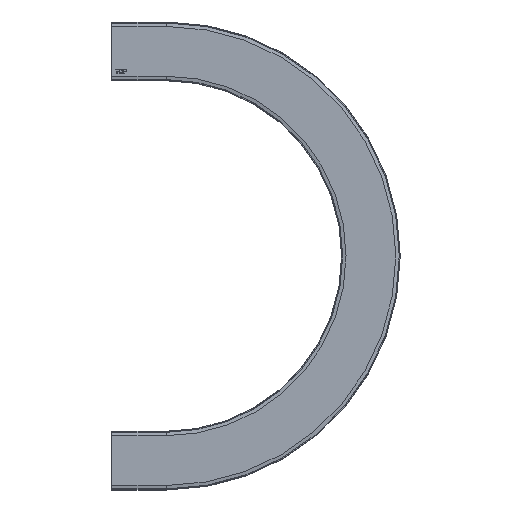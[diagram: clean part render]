
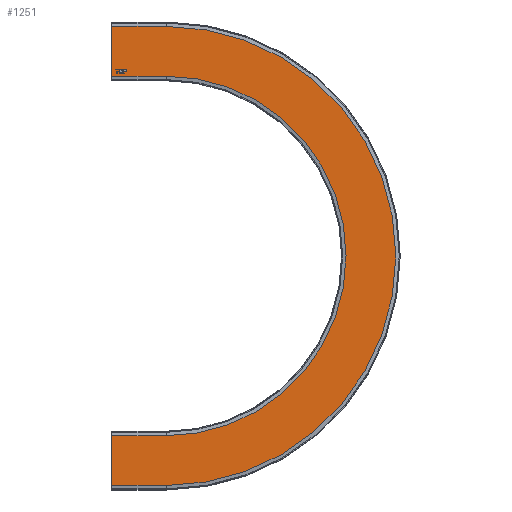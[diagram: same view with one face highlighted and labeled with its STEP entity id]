
A CAD part, top view. The second image highlights one B-rep face of the part: STEP entity #1251.
In plain terms, the highlighted planar face has unit normal (0, 0, 1).
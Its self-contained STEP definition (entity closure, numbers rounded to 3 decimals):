
#243=CARTESIAN_POINT('',(10.621,-29.49,0.0));
#244=VERTEX_POINT('',#243);
#251=CARTESIAN_POINT('',(13.541,-32.563,0.0));
#252=VERTEX_POINT('',#251);
#253=CARTESIAN_POINT('',(13.541,-32.563,0.0));
#254=CARTESIAN_POINT('',(12.676,-32.563,0.0));
#255=CARTESIAN_POINT('',(11.319,-31.731,0.0));
#256=CARTESIAN_POINT('',(10.621,-30.294,0.0));
#257=CARTESIAN_POINT('',(10.621,-29.49,0.0));
#258=QUASI_UNIFORM_CURVE('',2,(#253,#254,#255,#256,#257),.UNSPECIFIED.,.F.,.U.);
#259=EDGE_CURVE('',#252,#244,#258,.T.);
#292=CARTESIAN_POINT('',(16.456,-29.42,0.0));
#293=VERTEX_POINT('',#292);
#294=CARTESIAN_POINT('',(16.456,-29.42,0.0));
#295=CARTESIAN_POINT('',(16.456,-30.346,0.0));
#296=CARTESIAN_POINT('',(15.708,-31.81,0.0));
#297=CARTESIAN_POINT('',(14.331,-32.563,0.0));
#298=CARTESIAN_POINT('',(13.541,-32.563,0.0));
#299=QUASI_UNIFORM_CURVE('',2,(#294,#295,#296,#297,#298),.UNSPECIFIED.,.F.,.U.);
#300=EDGE_CURVE('',#293,#252,#299,.T.);
#333=CARTESIAN_POINT('',(13.541,-26.254,0.0));
#334=VERTEX_POINT('',#333);
#335=CARTESIAN_POINT('',(13.541,-26.254,0.0));
#336=CARTESIAN_POINT('',(14.387,-26.254,0.0));
#337=CARTESIAN_POINT('',(15.745,-27.063,0.0));
#338=CARTESIAN_POINT('',(16.456,-28.504,0.0));
#339=CARTESIAN_POINT('',(16.456,-29.42,0.0));
#340=QUASI_UNIFORM_CURVE('',2,(#335,#336,#337,#338,#339),.UNSPECIFIED.,.F.,.U.);
#341=EDGE_CURVE('',#334,#293,#340,.T.);
#369=CARTESIAN_POINT('',(10.621,-29.49,0.0));
#370=CARTESIAN_POINT('',(10.621,-27.97,0.0));
#371=CARTESIAN_POINT('',(12.253,-26.254,0.0));
#372=CARTESIAN_POINT('',(13.541,-26.254,0.0));
#373=QUASI_UNIFORM_CURVE('',2,(#369,#370,#371,#372),.UNSPECIFIED.,.F.,.U.);
#374=EDGE_CURVE('',#244,#334,#373,.T.);
#413=CARTESIAN_POINT('',(7.208,-32.461,0.0));
#414=VERTEX_POINT('',#413);
#421=CARTESIAN_POINT('',(8.017,-32.461,0.0));
#422=VERTEX_POINT('',#421);
#423=CARTESIAN_POINT('',(8.017,-32.461,0.0));
#424=DIRECTION('',(-1.0,0.0,0.0));
#425=VECTOR('',#424,0.809);
#426=LINE('',#423,#425);
#427=EDGE_CURVE('',#422,#414,#426,.T.);
#452=CARTESIAN_POINT('',(8.017,-27.082,0.0));
#453=VERTEX_POINT('',#452);
#454=CARTESIAN_POINT('',(8.017,-27.082,0.0));
#455=DIRECTION('',(0.0,-1.0,0.0));
#456=VECTOR('',#455,5.379);
#457=LINE('',#454,#456);
#458=EDGE_CURVE('',#453,#422,#457,.T.);
#483=CARTESIAN_POINT('',(10.035,-27.082,0.0));
#484=VERTEX_POINT('',#483);
#485=CARTESIAN_POINT('',(10.035,-27.082,0.0));
#486=DIRECTION('',(-1.0,0.0,0.0));
#487=VECTOR('',#486,2.018);
#488=LINE('',#485,#487);
#489=EDGE_CURVE('',#484,#453,#488,.T.);
#514=CARTESIAN_POINT('',(10.035,-26.361,0.0));
#515=VERTEX_POINT('',#514);
#516=CARTESIAN_POINT('',(10.035,-26.361,0.0));
#517=DIRECTION('',(0.0,-1.0,0.0));
#518=VECTOR('',#517,0.721);
#519=LINE('',#516,#518);
#520=EDGE_CURVE('',#515,#484,#519,.T.);
#545=CARTESIAN_POINT('',(5.2,-26.361,0.0));
#546=VERTEX_POINT('',#545);
#547=CARTESIAN_POINT('',(5.2,-26.361,0.0));
#548=DIRECTION('',(1.0,0.0,0.0));
#549=VECTOR('',#548,4.835);
#550=LINE('',#547,#549);
#551=EDGE_CURVE('',#546,#515,#550,.T.);
#576=CARTESIAN_POINT('',(5.2,-27.082,0.0));
#577=VERTEX_POINT('',#576);
#578=CARTESIAN_POINT('',(5.2,-27.082,0.0));
#579=DIRECTION('',(0.0,1.0,0.0));
#580=VECTOR('',#579,0.721);
#581=LINE('',#578,#580);
#582=EDGE_CURVE('',#577,#546,#581,.T.);
#607=CARTESIAN_POINT('',(7.208,-27.082,0.0));
#608=VERTEX_POINT('',#607);
#609=CARTESIAN_POINT('',(7.208,-27.082,0.0));
#610=DIRECTION('',(-1.0,0.0,0.0));
#611=VECTOR('',#610,2.009);
#612=LINE('',#609,#611);
#613=EDGE_CURVE('',#608,#577,#612,.T.);
#636=CARTESIAN_POINT('',(7.208,-32.461,0.0));
#637=DIRECTION('',(0.0,1.0,0.0));
#638=VECTOR('',#637,5.379);
#639=LINE('',#636,#638);
#640=EDGE_CURVE('',#414,#608,#639,.T.);
#877=CARTESIAN_POINT('',(17.493,-32.461,0.0));
#878=VERTEX_POINT('',#877);
#885=CARTESIAN_POINT('',(18.302,-32.461,0.0));
#886=VERTEX_POINT('',#885);
#887=CARTESIAN_POINT('',(18.302,-32.461,0.0));
#888=DIRECTION('',(-1.0,0.0,0.0));
#889=VECTOR('',#888,0.809);
#890=LINE('',#887,#889);
#891=EDGE_CURVE('',#886,#878,#890,.T.);
#916=CARTESIAN_POINT('',(18.302,-29.983,0.0));
#917=VERTEX_POINT('',#916);
#918=CARTESIAN_POINT('',(18.302,-29.983,0.0));
#919=DIRECTION('',(0.0,-1.0,0.0));
#920=VECTOR('',#919,2.478);
#921=LINE('',#918,#920);
#922=EDGE_CURVE('',#917,#886,#921,.T.);
#947=CARTESIAN_POINT('',(19.869,-29.983,0.0));
#948=VERTEX_POINT('',#947);
#949=CARTESIAN_POINT('',(19.869,-29.983,0.0));
#950=DIRECTION('',(-1.0,0.0,0.0));
#951=VECTOR('',#950,1.567);
#952=LINE('',#949,#951);
#953=EDGE_CURVE('',#948,#917,#952,.T.);
#983=CARTESIAN_POINT('',(22.152,-28.128,0.0));
#984=VERTEX_POINT('',#983);
#985=CARTESIAN_POINT('',(22.152,-28.128,0.0));
#986=CARTESIAN_POINT('',(22.152,-28.904,0.0));
#987=CARTESIAN_POINT('',(21.161,-29.983,0.0));
#988=CARTESIAN_POINT('',(19.869,-29.983,0.0));
#989=QUASI_UNIFORM_CURVE('',2,(#985,#986,#987,#988),.UNSPECIFIED.,.F.,.U.);
#990=EDGE_CURVE('',#984,#948,#989,.T.);
#1023=CARTESIAN_POINT('',(20.724,-26.422,0.0));
#1024=VERTEX_POINT('',#1023);
#1025=CARTESIAN_POINT('',(20.724,-26.422,0.0));
#1026=CARTESIAN_POINT('',(21.175,-26.496,0.0));
#1027=CARTESIAN_POINT('',(21.78,-26.914,0.0));
#1028=CARTESIAN_POINT('',(22.152,-27.672,0.0));
#1029=CARTESIAN_POINT('',(22.152,-28.128,0.0));
#1030=QUASI_UNIFORM_CURVE('',2,(#1025,#1026,#1027,#1028,#1029),.UNSPECIFIED.,.F.,.U.);
#1031=EDGE_CURVE('',#1024,#984,#1030,.T.);
#1058=CARTESIAN_POINT('',(19.794,-26.361,0.0));
#1059=VERTEX_POINT('',#1058);
#1060=CARTESIAN_POINT('',(19.794,-26.361,0.0));
#1061=CARTESIAN_POINT('',(20.403,-26.361,0.0));
#1062=CARTESIAN_POINT('',(20.724,-26.422,0.0));
#1063=QUASI_UNIFORM_CURVE('',2,(#1060,#1061,#1062),.UNSPECIFIED.,.F.,.U.);
#1064=EDGE_CURVE('',#1059,#1024,#1063,.T.);
#1089=CARTESIAN_POINT('',(17.493,-26.361,0.0));
#1090=VERTEX_POINT('',#1089);
#1091=CARTESIAN_POINT('',(17.493,-26.361,0.0));
#1092=DIRECTION('',(1.0,0.0,0.0));
#1093=VECTOR('',#1092,2.301);
#1094=LINE('',#1091,#1093);
#1095=EDGE_CURVE('',#1090,#1059,#1094,.T.);
#1118=CARTESIAN_POINT('',(17.493,-32.461,0.0));
#1119=DIRECTION('',(0.0,1.0,0.0));
#1120=VECTOR('',#1119,6.1);
#1121=LINE('',#1118,#1120);
#1122=EDGE_CURVE('',#878,#1090,#1121,.T.);
#1152=CARTESIAN_POINT('',(0.0,0.0,0.0));
#1153=DIRECTION('',(0.0,0.0,1.0));
#1154=DIRECTION('',(1.0,0.0,0.0));
#1155=AXIS2_PLACEMENT_3D('',#1152,#1153,#1154);
#1156=PLANE('',#1155);
#1157=CARTESIAN_POINT('',(0.0,36.5,0.0));
#1158=VERTEX_POINT('',#1157);
#1159=CARTESIAN_POINT('',(80.0,36.5,0.0));
#1160=VERTEX_POINT('',#1159);
#1161=CARTESIAN_POINT('',(0.0,36.5,0.0));
#1162=DIRECTION('',(1.0,0.0,0.0));
#1163=VECTOR('',#1162,80.0);
#1164=LINE('',#1161,#1163);
#1165=EDGE_CURVE('',#1158,#1160,#1164,.T.);
#1166=ORIENTED_EDGE('',*,*,#1165,.F.);
#1167=CARTESIAN_POINT('',(0.0,-36.5,0.0));
#1168=VERTEX_POINT('',#1167);
#1169=CARTESIAN_POINT('',(0.0,36.5,0.0));
#1170=DIRECTION('',(0.0,-1.0,0.0));
#1171=VECTOR('',#1170,73.0);
#1172=LINE('',#1169,#1171);
#1173=EDGE_CURVE('',#1158,#1168,#1172,.T.);
#1174=ORIENTED_EDGE('',*,*,#1173,.T.);
#1175=CARTESIAN_POINT('',(80.0,-36.5,0.0));
#1176=VERTEX_POINT('',#1175);
#1177=CARTESIAN_POINT('',(0.0,-36.5,0.0));
#1178=DIRECTION('',(1.0,0.0,0.0));
#1179=VECTOR('',#1178,80.0);
#1180=LINE('',#1177,#1179);
#1181=EDGE_CURVE('',#1168,#1176,#1180,.T.);
#1182=ORIENTED_EDGE('',*,*,#1181,.T.);
#1183=CARTESIAN_POINT('',(80.,-563.5,0.0));
#1184=VERTEX_POINT('',#1183);
#1185=CARTESIAN_POINT('',(80.0,-300.0,0.0));
#1186=DIRECTION('',(0.0,0.0,-1.0));
#1187=DIRECTION('',(0.0,1.0,0.0));
#1188=AXIS2_PLACEMENT_3D('',#1185,#1186,#1187);
#1189=CIRCLE('',#1188,263.5);
#1190=EDGE_CURVE('',#1176,#1184,#1189,.T.);
#1191=ORIENTED_EDGE('',*,*,#1190,.T.);
#1192=CARTESIAN_POINT('',(0.,-563.5,0.0));
#1193=VERTEX_POINT('',#1192);
#1194=CARTESIAN_POINT('',(80.,-563.5,0.0));
#1195=DIRECTION('',(-1.0,0.0,0.0));
#1196=VECTOR('',#1195,80.);
#1197=LINE('',#1194,#1196);
#1198=EDGE_CURVE('',#1184,#1193,#1197,.T.);
#1199=ORIENTED_EDGE('',*,*,#1198,.T.);
#1200=CARTESIAN_POINT('',(0.,-636.5,0.0));
#1201=VERTEX_POINT('',#1200);
#1202=CARTESIAN_POINT('',(0.,-563.5,0.));
#1203=DIRECTION('',(0.0,-1.0,0.0));
#1204=VECTOR('',#1203,73.0);
#1205=LINE('',#1202,#1204);
#1206=EDGE_CURVE('',#1193,#1201,#1205,.T.);
#1207=ORIENTED_EDGE('',*,*,#1206,.T.);
#1208=CARTESIAN_POINT('',(80.,-636.5,0.0));
#1209=VERTEX_POINT('',#1208);
#1210=CARTESIAN_POINT('',(80.,-636.5,0.0));
#1211=DIRECTION('',(-1.0,0.0,0.0));
#1212=VECTOR('',#1211,80.);
#1213=LINE('',#1210,#1212);
#1214=EDGE_CURVE('',#1209,#1201,#1213,.T.);
#1215=ORIENTED_EDGE('',*,*,#1214,.F.);
#1216=CARTESIAN_POINT('',(80.0,-300.0,0.0));
#1217=DIRECTION('',(0.0,0.0,-1.0));
#1218=DIRECTION('',(0.0,1.0,0.0));
#1219=AXIS2_PLACEMENT_3D('',#1216,#1217,#1218);
#1220=CIRCLE('',#1219,336.5);
#1221=EDGE_CURVE('',#1160,#1209,#1220,.T.);
#1222=ORIENTED_EDGE('',*,*,#1221,.F.);
#1223=EDGE_LOOP('',(#1166,#1174,#1182,#1191,#1199,#1207,#1215,#1222));
#1224=FACE_OUTER_BOUND('',#1223,.T.);
#1225=ORIENTED_EDGE('',*,*,#259,.T.);
#1226=ORIENTED_EDGE('',*,*,#374,.T.);
#1227=ORIENTED_EDGE('',*,*,#341,.T.);
#1228=ORIENTED_EDGE('',*,*,#300,.T.);
#1229=EDGE_LOOP('',(#1225,#1226,#1227,#1228));
#1230=FACE_BOUND('',#1229,.T.);
#1231=ORIENTED_EDGE('',*,*,#427,.T.);
#1232=ORIENTED_EDGE('',*,*,#640,.T.);
#1233=ORIENTED_EDGE('',*,*,#613,.T.);
#1234=ORIENTED_EDGE('',*,*,#582,.T.);
#1235=ORIENTED_EDGE('',*,*,#551,.T.);
#1236=ORIENTED_EDGE('',*,*,#520,.T.);
#1237=ORIENTED_EDGE('',*,*,#489,.T.);
#1238=ORIENTED_EDGE('',*,*,#458,.T.);
#1239=EDGE_LOOP('',(#1231,#1232,#1233,#1234,#1235,#1236,#1237,#1238));
#1240=FACE_BOUND('',#1239,.T.);
#1241=ORIENTED_EDGE('',*,*,#891,.T.);
#1242=ORIENTED_EDGE('',*,*,#1122,.T.);
#1243=ORIENTED_EDGE('',*,*,#1095,.T.);
#1244=ORIENTED_EDGE('',*,*,#1064,.T.);
#1245=ORIENTED_EDGE('',*,*,#1031,.T.);
#1246=ORIENTED_EDGE('',*,*,#990,.T.);
#1247=ORIENTED_EDGE('',*,*,#953,.T.);
#1248=ORIENTED_EDGE('',*,*,#922,.T.);
#1249=EDGE_LOOP('',(#1241,#1242,#1243,#1244,#1245,#1246,#1247,#1248));
#1250=FACE_BOUND('',#1249,.T.);
#1251=ADVANCED_FACE('',(#1224,#1230,#1240,#1250),#1156,.T.);
